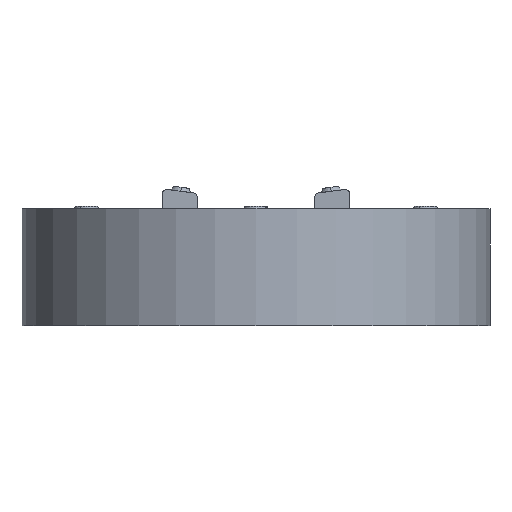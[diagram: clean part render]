
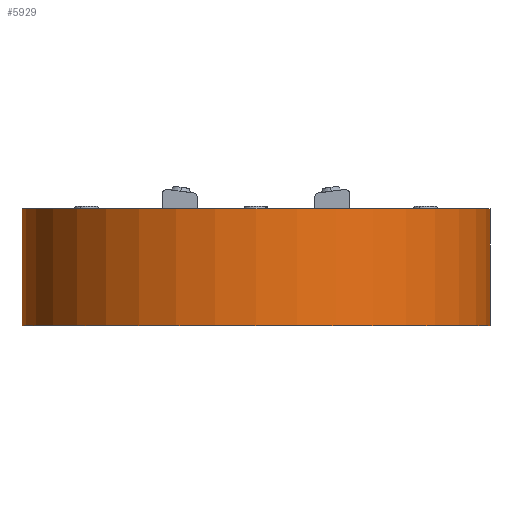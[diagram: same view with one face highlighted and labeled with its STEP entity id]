
A CAD part, front view. The second image highlights one B-rep face of the part: STEP entity #5929.
In plain terms, the highlighted cylindrical face has radius 100 mm (diameter 200 mm), a partial arc.
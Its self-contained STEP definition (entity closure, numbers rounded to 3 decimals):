
#1288 = DIRECTION ( 'NONE',  ( 0., 0., 1. ) ) ;
#4561 = DIRECTION ( 'NONE',  ( -1., 0., 0. ) ) ;
#4708 = EDGE_LOOP ( 'NONE', ( #27821, #20802, #28095, #33389 ) ) ;
#5413 = VERTEX_POINT ( 'NONE', #21725 ) ;
#5497 = AXIS2_PLACEMENT_3D ( 'NONE', #33405, #27884, #4561 ) ;
#5929 = ADVANCED_FACE ( 'NONE', ( #17190 ), #17704, .T. ) ;
#5937 = AXIS2_PLACEMENT_3D ( 'NONE', #6999, #27548, #9609 ) ;
#6633 = EDGE_CURVE ( 'NONE', #5413, #24366, #25958, .T. ) ;
#6999 = CARTESIAN_POINT ( 'NONE',  ( 0., 0., -49. ) ) ;
#8800 = CIRCLE ( 'NONE', #18481, 100. ) ;
#9609 = DIRECTION ( 'NONE',  ( -1., 0., 0. ) ) ;
#12516 = CARTESIAN_POINT ( 'NONE',  ( 100., 0., 1. ) ) ;
#12879 = VECTOR ( 'NONE', #27570, 1000. ) ;
#13333 = EDGE_CURVE ( 'NONE', #13788, #17886, #27235, .T. ) ;
#13788 = VERTEX_POINT ( 'NONE', #17175 ) ;
#16401 = EDGE_CURVE ( 'NONE', #13788, #5413, #20406, .T. ) ;
#17175 = CARTESIAN_POINT ( 'NONE',  ( 100., 0., -49. ) ) ;
#17190 = FACE_OUTER_BOUND ( 'NONE', #4708, .T. ) ;
#17209 = CARTESIAN_POINT ( 'NONE',  ( 0., 0., 1. ) ) ;
#17704 = CYLINDRICAL_SURFACE ( 'NONE', #5937, 100. ) ;
#17886 = VERTEX_POINT ( 'NONE', #12516 ) ;
#17966 = CARTESIAN_POINT ( 'NONE',  ( -100., 0., 1. ) ) ;
#18003 = DIRECTION ( 'NONE',  ( 0., 0., 1. ) ) ;
#18481 = AXIS2_PLACEMENT_3D ( 'NONE', #17209, #1288, #31046 ) ;
#20406 = CIRCLE ( 'NONE', #5497, 100. ) ;
#20802 = ORIENTED_EDGE ( 'NONE', *, *, #13333, .T. ) ;
#21117 = CARTESIAN_POINT ( 'NONE',  ( -100., 0., -49. ) ) ;
#21725 = CARTESIAN_POINT ( 'NONE',  ( -100., 0., -49. ) ) ;
#24366 = VERTEX_POINT ( 'NONE', #17966 ) ;
#24644 = VECTOR ( 'NONE', #18003, 1000. ) ;
#25958 = LINE ( 'NONE', #21117, #24644 ) ;
#26948 = EDGE_CURVE ( 'NONE', #24366, #17886, #8800, .T. ) ;
#27235 = LINE ( 'NONE', #30346, #12879 ) ;
#27548 = DIRECTION ( 'NONE',  ( 0., 0., 1. ) ) ;
#27570 = DIRECTION ( 'NONE',  ( 0., 0., 1. ) ) ;
#27821 = ORIENTED_EDGE ( 'NONE', *, *, #16401, .F. ) ;
#27884 = DIRECTION ( 'NONE',  ( 0., 0., -1. ) ) ;
#28095 = ORIENTED_EDGE ( 'NONE', *, *, #26948, .F. ) ;
#30346 = CARTESIAN_POINT ( 'NONE',  ( 100., 0., -49. ) ) ;
#31046 = DIRECTION ( 'NONE',  ( 1., 0., 0. ) ) ;
#33389 = ORIENTED_EDGE ( 'NONE', *, *, #6633, .F. ) ;
#33405 = CARTESIAN_POINT ( 'NONE',  ( 0., 0., -49. ) ) ;
